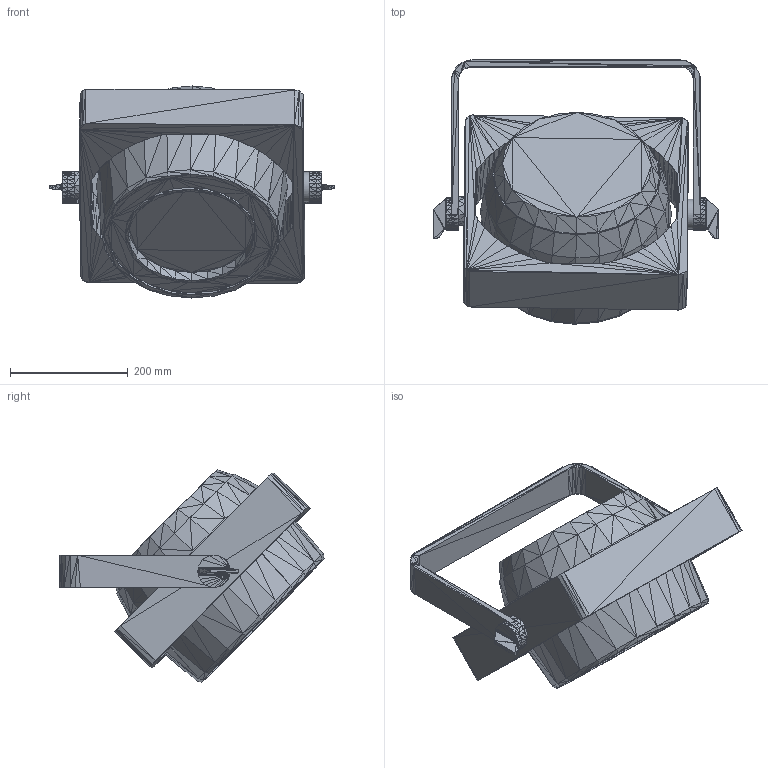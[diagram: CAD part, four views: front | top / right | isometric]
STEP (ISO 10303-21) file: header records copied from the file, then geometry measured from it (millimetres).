
FILE_DESCRIPTION(/* description */ (''),/* implementation_level */ '2;1');
FILE_NAME(/* name */ 'Strike Array Ultra_45.stp',/* time_stamp */ '2026-03-10T10:38:44-04:00',/* author */ ('chenry'),/* organization */ (''),/* preprocessor_version */ 'ST-DEVELOPER v20',/* originating_system */ 'Autodesk Inventor 2024',/* authorisation */ '');
FILE_SCHEMA (('AUTOMOTIVE_DESIGN { 1 0 10303 214 3 1 1 }'));
Length unit declared in the file: millimetre
Products named in the file (7): 00-CH-EB1000-IP00_ASM; Component140; bracket; Component141; Frame; Head; Part18
Assembly tree (6 placements, depth 4):
  00-CH-EB1000-IP00_ASM
    Component140
      bracket
    Component141
      Frame
        Head
        Part18
Bounding box: 485.06 x 448.64 x 359.9 mm (x, y, z)
Volume: 21382789.6 mm3; surface area: 842185.9 mm2
Topology: 5 solids, 5 shells, 1773 faces, 2770 edges, 949 vertices
Faces by surface type: plane 1771, cylinder 2
Full cylindrical faces by diameter (mm): 50.644 x2
Entity records: 35760 total; most frequent: DIRECTION 6358, ORIENTED_EDGE 5540, CARTESIAN_POINT 5505, EDGE_CURVE 2770, LINE 2754, VECTOR 2754, AXIS2_PLACEMENT_3D 1802, FACE_OUTER_BOUND 1773
